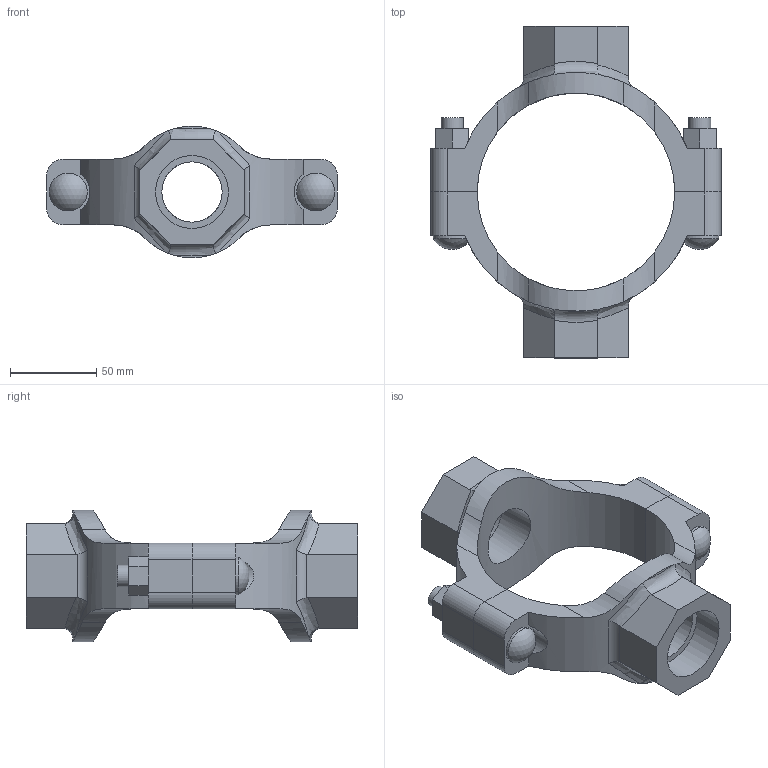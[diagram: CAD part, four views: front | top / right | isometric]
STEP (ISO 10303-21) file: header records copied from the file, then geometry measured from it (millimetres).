
FILE_DESCRIPTION(/* description */ ('VIC MECH-T BRANCH OUTLET CROSS STYLE 920N (THD)','CAx-IF Rec.Pracs.---Representation and Presentation of Product Manufacturing Information (PMI)---4.0---2014-10-13'),/* implementation_level */ '2;1');
FILE_NAME(/* name */ 'C:\Users\Vjadhav\AppData\Roaming\Autodesk\ApplicationPlugins\Back Up\Victaulic_IPS_Mechanical-Cross Outlet_Style 920N (FPT)\Victaulic_IPS_Mechanical-Cross Outlet_04.0x01.25x01.25 (100x32x32).stp',/* time_stamp */ '2020-08-06T18:58:27+05:00',/* author */ ('Vjadhav'),/* organization */ ('Victaulic'),/* preprocessor_version */ 'ST-DEVELOPER v17.2',/* originating_system */ 'Autodesk Inventor 2019',/* authorisation */ '');
FILE_SCHEMA (('AP242_MANAGED_MODEL_BASED_3D_ENGINEERING_MIM_LF { 1 0 10303 442 1 1 4 }'));
Length unit declared in the file: inch
Products named in the file (3): 920NT-04.0x01.25x01.25; 920NT-04.0x01.25; 920NT-04.0x01.25_1
Assembly tree (2 placements, depth 2):
  920NT-04.0x01.25x01.25
    920NT-04.0x01.25
    920NT-04.0x01.25_1
Bounding box: 168.4 x 192.02 x 76.19 mm (x, y, z)
Volume: 371557.6 mm3; surface area: 87003.5 mm2
Topology: 2 solids, 2 shells, 138 faces, 374 edges, 252 vertices
Faces by surface type: plane 68, cylinder 56, bspline 8, torus 4, sphere 2
Full cylindrical faces by diameter (mm): 12.7 x4, 21.982 x2, 34.925 x2, 42.164 x2
Entity records: 5528 total; most frequent: CARTESIAN_POINT 1859, ORIENTED_EDGE 748, DIRECTION 660, EDGE_CURVE 374, VERTEX_POINT 252, AXIS2_PLACEMENT_3D 237, LINE 186, VECTOR 186
